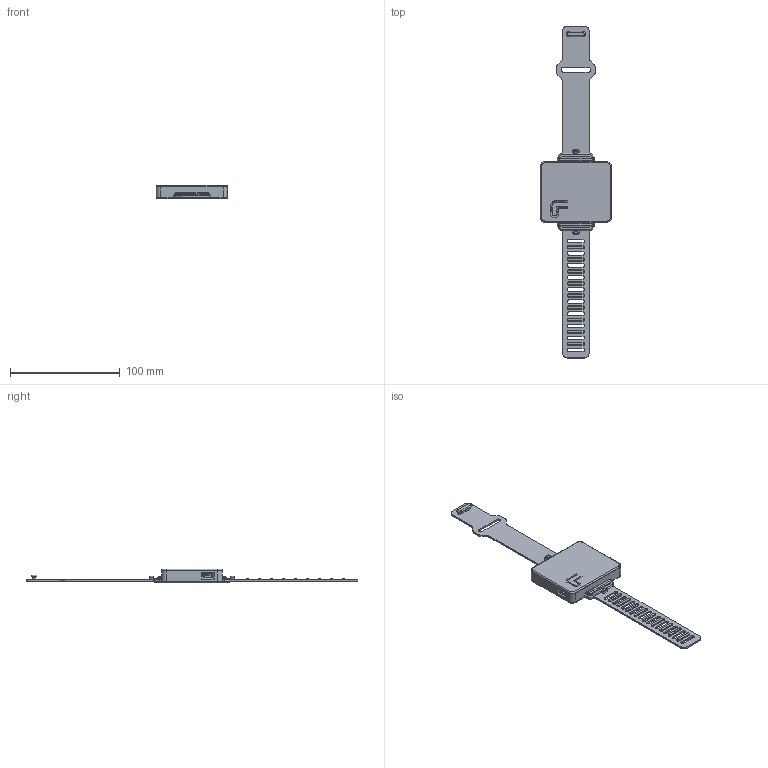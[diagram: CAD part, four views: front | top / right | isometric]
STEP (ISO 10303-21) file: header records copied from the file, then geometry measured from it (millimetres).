
FILE_DESCRIPTION(/* description */ (''),/* implementation_level */ '2;1');
FILE_NAME(/* name */ '/Users/pedroruiz/Dropbox/3D/Products/Vibration Watch/cad/Vibration Watch.step',/* time_stamp */ '2020-05-19T23:20:27-04:00',/* author */ (''),/* organization */ (''),/* preprocessor_version */ 'ST-DEVELOPER v18.1',/* originating_system */ 'Autodesk Translation Framework v9.3.0.1241',/* authorisation */ '');
FILE_SCHEMA (('AUTOMOTIVE_DESIGN { 1 0 10303 214 3 1 1 }'));
Products named in the file (40): Vibration Watch; electronics; Adafruit DRV2605L; PCB Component; Board; DRV2605LDGS; 1uF; Adafruit Feather nRF52840 Sense; PCB Component_1; Board_1; KMR2; AP2112(3.3V); RED; 4u20329; MBR054; DMG2305; BLUE; MDBT50; GD25Q16; WS2812B3535; 2.2K; 10uF; DNP; 4.7K; LSM6DS33; LIS3MDL; APDS-9960; SHT30; MIC_PDM; BMP280; CON_JST_PH_2PIN_MTPH2; Slide Switch; 420mah Battery; Vibration Motor; case; box; cover; ArmBand; strap; band
Assembly tree (60 placements, depth 5):
  Vibration Watch
    electronics
      Adafruit DRV2605L
        PCB Component
          Board
          DRV2605LDGS
          1uF  x4
      Adafruit Feather nRF52840 Sense
        PCB Component_1
          Board_1
          KMR2  x2
          AP2112(3.3V)  x2
          RED  x2
          4u20329
          MBR054
          DMG2305
          BLUE
          MDBT50
          GD25Q16
          WS2812B3535
          2.2K  x11
          10uF  x5
          DNP
          4.7K  x2
          LSM6DS33
          LIS3MDL
          APDS-9960
          SHT30
          MIC_PDM
          BMP280
          CON_JST_PH_2PIN_MTPH2
      Slide Switch
      420mah Battery
      Vibration Motor
    case
      box
      cover
    ArmBand
      strap
      band
Bounding box: 65.2 x 303 x 12.5 mm (x, y, z)
Volume: 33962.9 mm3; surface area: 44023.2 mm2
Topology: 116 solids, 116 shells, 3382 faces, 8873 edges, 5726 vertices
Faces by surface type: plane 2474, cylinder 738, bspline 60, cone 49, sphere 35, torus 26
Full cylindrical faces by diameter (mm): 0.2 x2, 0.3 x3, 0.394 x104, 0.4 x1, 0.65 x1, 0.7 x2, 0.8 x4, 0.9 x1, 1 x35, 1.1 x1, 1.5 x1, 2 x4, 2.5 x4, 2.54 x2, 3 x6, 5 x4, 9 x1, 10 x1
Entity records: 86149 total; most frequent: CARTESIAN_POINT 16095, ORIENTED_EDGE 13962, DIRECTION 13800, EDGE_CURVE 6981, LINE 5574, VECTOR 5574, VERTEX_POINT 4512, AXIS2_PLACEMENT_3D 4113
